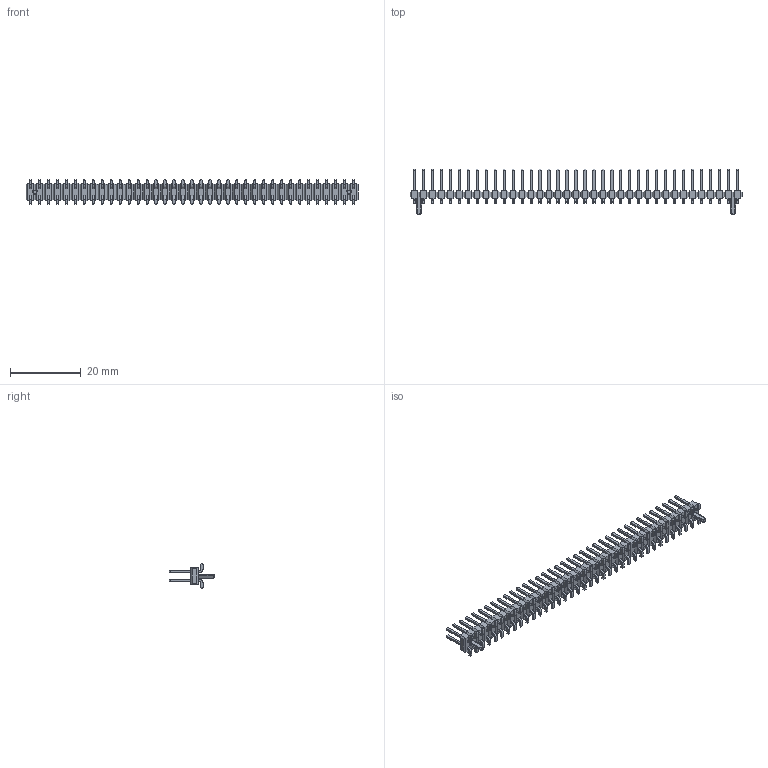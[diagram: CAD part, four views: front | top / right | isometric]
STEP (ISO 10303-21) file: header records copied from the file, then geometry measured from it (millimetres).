
FILE_DESCRIPTION((''),'2;1');
FILE_NAME('015911742','2018-12-12T',('gga'),(''),'PRO/ENGINEER BY PARAMETRIC TECHNOLOGY CORPORATION, 2016010','PRO/ENGINEER BY PARAMETRIC TECHNOLOGY CORPORATION, 2016010','');
FILE_SCHEMA(('CONFIG_CONTROL_DESIGN'));
Length unit declared in the file: millimetre
Products named in the file (1): 015911742
Bounding box: 93.98 x 12.96 x 6.99 mm (x, y, z)
Volume: 1236.3 mm3; surface area: 3186.3 mm2
Topology: 1 solids, 1 shells, 2120 faces, 5184 edges, 3216 vertices
Faces by surface type: plane 1950, cylinder 166, cone 4
Entity records: 59558 total; most frequent: CARTESIAN_POINT 10328, ORIENTED_EDGE 9748, DIRECTION 9726, EDGE_CURVE 4874, VECTOR 4820, LINE 4820, VERTEX_POINT 2904, AXIS2_PLACEMENT_3D 2453
